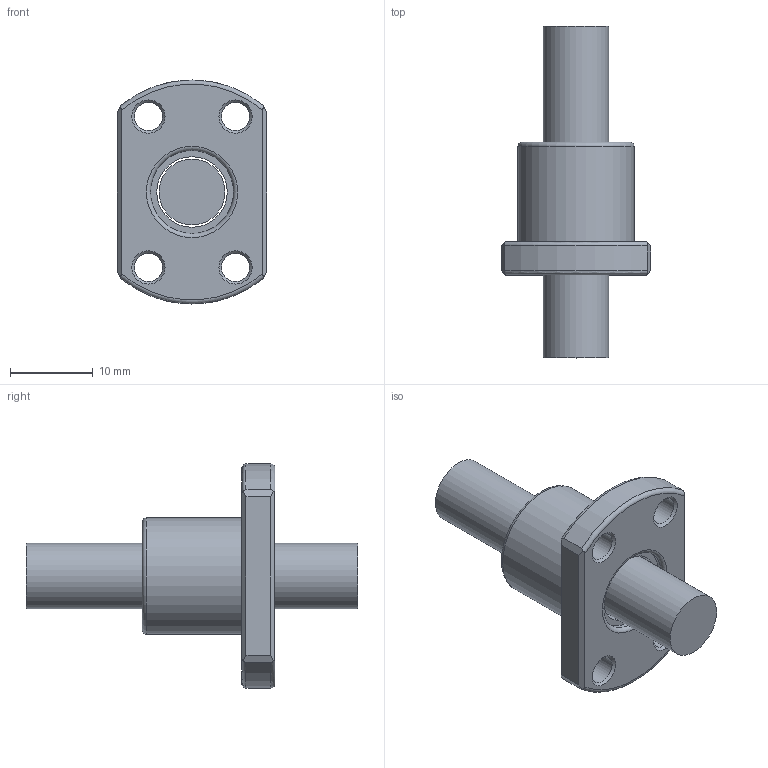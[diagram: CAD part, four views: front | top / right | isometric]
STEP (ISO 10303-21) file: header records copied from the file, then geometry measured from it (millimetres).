
FILE_DESCRIPTION(/* description */ (''),/* implementation_level */ '2;1');
FILE_NAME(/* name */ '0801.prt.step',/* time_stamp */ '2008-12-05T09:38:07+08:00',/* author */ (''),/* organization */ (''),/* preprocessor_version */ 'ST-DEVELOPER v11',/* originating_system */ 'SIEMENS UGS NX 6.0',/* authorisation */ '');
FILE_SCHEMA (('AUTOMOTIVE_DESIGN { 1 0 10303 214 1 1 1 1 }'));
Length unit declared in the file: millimetre
Products named in the file (1): 0801
Bounding box: 18 x 40 x 27 mm (x, y, z)
Volume: 4499.5 mm3; surface area: 3181.1 mm2
Topology: 2 solids, 2 shells, 43 faces, 100 edges, 64 vertices
Faces by surface type: plane 17, cylinder 11, cone 8, torus 7
Full cylindrical faces by diameter (mm): 3.4 x4, 7.95 x1, 8.5 x1, 10 x2, 14 x1
Entity records: 1334 total; most frequent: CARTESIAN_POINT 398, DIRECTION 186, ORIENTED_EDGE 154, AXIS2_PLACEMENT_3D 81, EDGE_CURVE 77, EDGE_LOOP 76, VERTEX_POINT 61, FACE_BOUND 58
